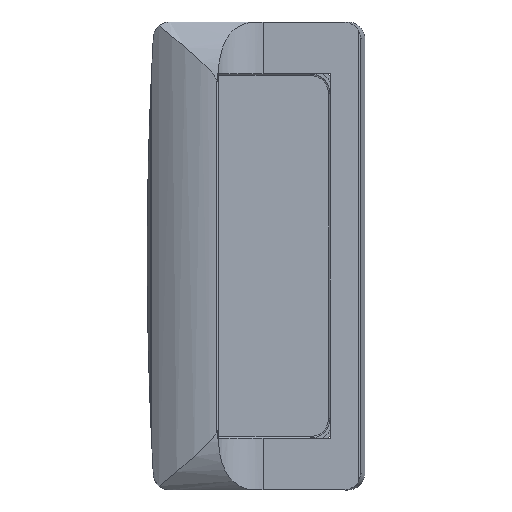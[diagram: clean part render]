
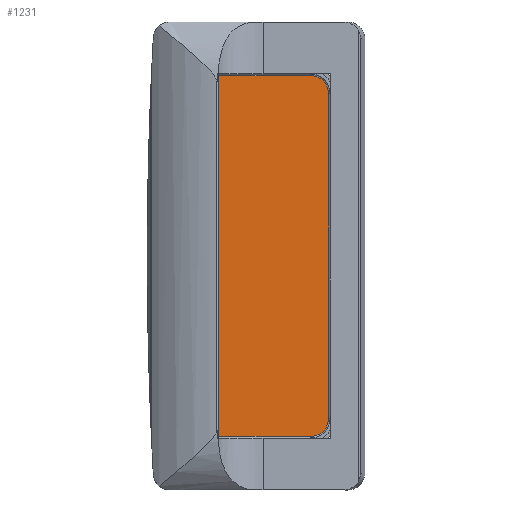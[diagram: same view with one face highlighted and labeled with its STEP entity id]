
A CAD part, top view. The second image highlights one B-rep face of the part: STEP entity #1231.
In plain terms, the highlighted planar face has unit normal (0, 0, 1).
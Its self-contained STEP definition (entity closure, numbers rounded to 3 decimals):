
#660=CARTESIAN_POINT('',(-10.2,80.358,-10.0));
#661=VERTEX_POINT('',#660);
#679=CARTESIAN_POINT('',(-10.2,-18.142,-10.0));
#680=VERTEX_POINT('',#679);
#688=CARTESIAN_POINT('',(-10.2,-18.142,-10.0));
#689=DIRECTION('',(0.0,1.0,0.0));
#690=VECTOR('',#689,98.5);
#691=LINE('',#688,#690);
#692=EDGE_CURVE('',#680,#661,#691,.T.);
#750=CARTESIAN_POINT('',(-4.7,85.858,-10.0));
#751=VERTEX_POINT('',#750);
#769=CARTESIAN_POINT('',(-4.7,80.358,-10.0));
#770=DIRECTION('',(0.0,0.0,-1.0));
#771=DIRECTION('',(-0.707,0.707,0.0));
#772=AXIS2_PLACEMENT_3D('',#769,#770,#771);
#773=CIRCLE('',#772,5.5);
#774=EDGE_CURVE('',#661,#751,#773,.T.);
#834=CARTESIAN_POINT('',(-4.7,-23.642,-10.0));
#835=VERTEX_POINT('',#834);
#843=CARTESIAN_POINT('',(-4.7,-18.142,-10.0));
#844=DIRECTION('',(0.0,0.0,-1.));
#845=DIRECTION('',(-0.707,-0.707,0.0));
#846=AXIS2_PLACEMENT_3D('',#843,#844,#845);
#847=CIRCLE('',#846,5.5);
#848=EDGE_CURVE('',#835,#680,#847,.T.);
#866=CARTESIAN_POINT('',(28.3,85.858,-10.0));
#867=VERTEX_POINT('',#866);
#884=CARTESIAN_POINT('',(-4.7,85.858,-10.0));
#885=DIRECTION('',(1.0,0.0,0.0));
#886=VECTOR('',#885,33.);
#887=LINE('',#884,#886);
#888=EDGE_CURVE('',#751,#867,#887,.T.);
#900=CARTESIAN_POINT('',(28.3,-23.642,-10.0));
#901=VERTEX_POINT('',#900);
#909=CARTESIAN_POINT('',(28.3,-23.642,-10.0));
#910=DIRECTION('',(-1.0,0.0,0.0));
#911=VECTOR('',#910,33.);
#912=LINE('',#909,#911);
#913=EDGE_CURVE('',#901,#835,#912,.T.);
#978=CARTESIAN_POINT('',(33.8,80.358,-10.0));
#979=VERTEX_POINT('',#978);
#997=CARTESIAN_POINT('',(28.3,80.358,-10.0));
#998=DIRECTION('',(0.0,0.0,-1.0));
#999=DIRECTION('',(0.707,0.707,0.0));
#1000=AXIS2_PLACEMENT_3D('',#997,#998,#999);
#1001=CIRCLE('',#1000,5.5);
#1002=EDGE_CURVE('',#867,#979,#1001,.T.);
#1062=CARTESIAN_POINT('',(33.8,-18.142,-10.0));
#1063=VERTEX_POINT('',#1062);
#1071=CARTESIAN_POINT('',(28.3,-18.142,-10.0));
#1072=DIRECTION('',(0.0,0.0,-1.0));
#1073=DIRECTION('',(0.707,-0.707,0.0));
#1074=AXIS2_PLACEMENT_3D('',#1071,#1072,#1073);
#1075=CIRCLE('',#1074,5.5);
#1076=EDGE_CURVE('',#1063,#901,#1075,.T.);
#1095=CARTESIAN_POINT('',(33.8,80.358,-10.0));
#1096=DIRECTION('',(0.0,-1.0,0.0));
#1097=VECTOR('',#1096,98.5);
#1098=LINE('',#1095,#1097);
#1099=EDGE_CURVE('',#979,#1063,#1098,.T.);
#1216=CARTESIAN_POINT('',(11.8,31.108,-10.0));
#1217=DIRECTION('',(0.0,0.0,1.0));
#1218=DIRECTION('',(1.0,0.0,0.0));
#1219=AXIS2_PLACEMENT_3D('',#1216,#1217,#1218);
#1220=PLANE('',#1219);
#1221=ORIENTED_EDGE('',*,*,#692,.F.);
#1222=ORIENTED_EDGE('',*,*,#848,.F.);
#1223=ORIENTED_EDGE('',*,*,#913,.F.);
#1224=ORIENTED_EDGE('',*,*,#1076,.F.);
#1225=ORIENTED_EDGE('',*,*,#1099,.F.);
#1226=ORIENTED_EDGE('',*,*,#1002,.F.);
#1227=ORIENTED_EDGE('',*,*,#888,.F.);
#1228=ORIENTED_EDGE('',*,*,#774,.F.);
#1229=EDGE_LOOP('',(#1221,#1222,#1223,#1224,#1225,#1226,#1227,#1228));
#1230=FACE_OUTER_BOUND('',#1229,.T.);
#1231=ADVANCED_FACE('',(#1230),#1220,.T.);
